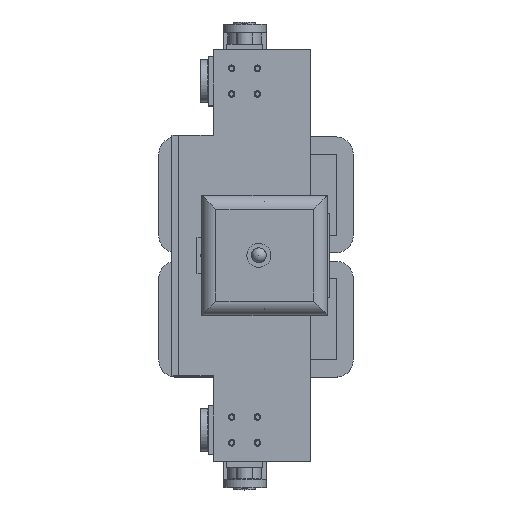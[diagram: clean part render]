
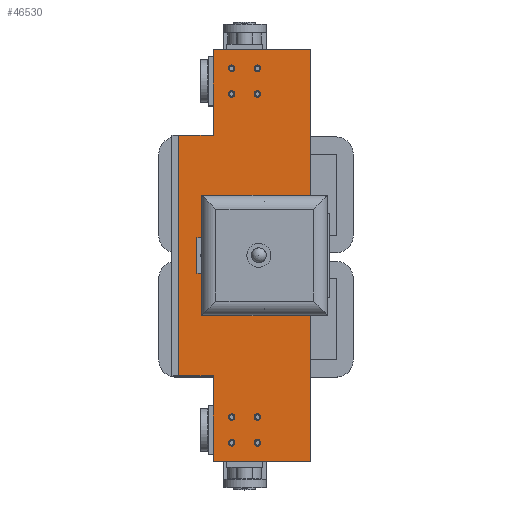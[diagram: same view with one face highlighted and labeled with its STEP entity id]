
A CAD part, top view. The second image highlights one B-rep face of the part: STEP entity #46530.
In plain terms, the highlighted planar face has unit normal (0, 0, 1).
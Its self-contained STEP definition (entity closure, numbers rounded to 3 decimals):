
#44137 = EDGE_CURVE('',#44138,#44138,#44140,.T.);
#44138 = VERTEX_POINT('',#44139);
#44139 = CARTESIAN_POINT('',(-13.6,0.,302.25));
#44140 = CIRCLE('',#44141,0.8);
#44141 = AXIS2_PLACEMENT_3D('',#44142,#44143,#44144);
#44142 = CARTESIAN_POINT('',(-14.4,0.,302.25));
#44143 = DIRECTION('',(0.,0.,1.));
#44144 = DIRECTION('',(1.,0.,0.));
#44163 = VERTEX_POINT('',#44164);
#44164 = CARTESIAN_POINT('',(11.2,-6.45,302.25));
#44172 = VERTEX_POINT('',#44173);
#44173 = CARTESIAN_POINT('',(-12.2,-6.45,302.25));
#44179 = EDGE_CURVE('',#44163,#44172,#44180,.T.);
#44180 = LINE('',#44181,#44182);
#44181 = CARTESIAN_POINT('',(-17.6,-6.45,302.25));
#44182 = VECTOR('',#44183,1.);
#44183 = DIRECTION('',(-1.,0.,0.));
#44196 = VERTEX_POINT('',#44197);
#44197 = CARTESIAN_POINT('',(11.2,6.45,302.25));
#44203 = EDGE_CURVE('',#44163,#44196,#44204,.T.);
#44204 = LINE('',#44205,#44206);
#44205 = CARTESIAN_POINT('',(11.2,-24.225,302.25));
#44206 = VECTOR('',#44207,1.);
#44207 = DIRECTION('',(0.,1.,0.));
#44220 = VERTEX_POINT('',#44221);
#44221 = CARTESIAN_POINT('',(-12.2,6.45,302.25));
#44227 = EDGE_CURVE('',#44172,#44220,#44228,.T.);
#44228 = LINE('',#44229,#44230);
#44229 = CARTESIAN_POINT('',(-12.2,-24.225,302.25));
#44230 = VECTOR('',#44231,1.);
#44231 = DIRECTION('',(0.,1.,0.));
#44244 = EDGE_CURVE('',#44196,#44220,#44245,.T.);
#44245 = LINE('',#44246,#44247);
#44246 = CARTESIAN_POINT('',(-17.6,6.45,302.25));
#44247 = VECTOR('',#44248,1.);
#44248 = DIRECTION('',(-1.,0.,0.));
#44258 = EDGE_CURVE('',#44259,#44259,#44261,.T.);
#44259 = VERTEX_POINT('',#44260);
#44260 = CARTESIAN_POINT('',(14.2,0.,302.25));
#44261 = CIRCLE('',#44262,0.8);
#44262 = AXIS2_PLACEMENT_3D('',#44263,#44264,#44265);
#44263 = CARTESIAN_POINT('',(13.4,0.,302.25));
#44264 = DIRECTION('',(0.,0.,1.));
#44265 = DIRECTION('',(1.,0.,0.));
#44327 = VERTEX_POINT('',#44328);
#44328 = CARTESIAN_POINT('',(-23.,-42.,302.25));
#44334 = EDGE_CURVE('',#44327,#44335,#44337,.T.);
#44335 = VERTEX_POINT('',#44336);
#44336 = CARTESIAN_POINT('',(-11.,-42.,302.25));
#44337 = LINE('',#44338,#44339);
#44338 = CARTESIAN_POINT('',(-23.,-42.,302.25));
#44339 = VECTOR('',#44340,1.);
#44340 = DIRECTION('',(1.,0.,0.));
#44647 = VERTEX_POINT('',#44648);
#44648 = CARTESIAN_POINT('',(-23.,42.,302.25));
#44654 = EDGE_CURVE('',#44647,#44655,#44657,.T.);
#44655 = VERTEX_POINT('',#44656);
#44656 = CARTESIAN_POINT('',(-11.,42.,302.25));
#44657 = LINE('',#44658,#44659);
#44658 = CARTESIAN_POINT('',(-23.,42.,302.25));
#44659 = VECTOR('',#44660,1.);
#44660 = DIRECTION('',(1.,0.,0.));
#44794 = VERTEX_POINT('',#44795);
#44795 = CARTESIAN_POINT('',(-11.,-72.,302.25));
#44803 = EDGE_CURVE('',#44794,#44335,#44804,.T.);
#44804 = LINE('',#44805,#44806);
#44805 = CARTESIAN_POINT('',(-11.,-72.,302.25));
#44806 = VECTOR('',#44807,1.);
#44807 = DIRECTION('',(0.,1.,0.));
#45266 = VERTEX_POINT('',#45267);
#45267 = CARTESIAN_POINT('',(-11.,72.,302.25));
#45273 = EDGE_CURVE('',#44655,#45266,#45274,.T.);
#45274 = LINE('',#45275,#45276);
#45275 = CARTESIAN_POINT('',(-11.,42.,302.25));
#45276 = VECTOR('',#45277,1.);
#45277 = DIRECTION('',(0.,1.,0.));
#45689 = EDGE_CURVE('',#44794,#45690,#45692,.T.);
#45690 = VERTEX_POINT('',#45691);
#45691 = CARTESIAN_POINT('',(23.,-72.,302.25));
#45692 = LINE('',#45693,#45694);
#45693 = CARTESIAN_POINT('',(-11.,-72.,302.25));
#45694 = VECTOR('',#45695,1.);
#45695 = DIRECTION('',(1.,0.,0.));
#45711 = EDGE_CURVE('',#45712,#45712,#45714,.T.);
#45712 = VERTEX_POINT('',#45713);
#45713 = CARTESIAN_POINT('',(-3.35,-65.5,302.25));
#45714 = CIRCLE('',#45715,1.15);
#45715 = AXIS2_PLACEMENT_3D('',#45716,#45717,#45718);
#45716 = CARTESIAN_POINT('',(-4.5,-65.5,302.25));
#45717 = DIRECTION('',(0.,0.,1.));
#45718 = DIRECTION('',(1.,0.,0.));
#45736 = EDGE_CURVE('',#45737,#45737,#45739,.T.);
#45737 = VERTEX_POINT('',#45738);
#45738 = CARTESIAN_POINT('',(5.65,-65.5,302.25));
#45739 = CIRCLE('',#45740,1.15);
#45740 = AXIS2_PLACEMENT_3D('',#45741,#45742,#45743);
#45741 = CARTESIAN_POINT('',(4.5,-65.5,302.25));
#45742 = DIRECTION('',(0.,0.,1.));
#45743 = DIRECTION('',(1.,0.,0.));
#45761 = EDGE_CURVE('',#45762,#45762,#45764,.T.);
#45762 = VERTEX_POINT('',#45763);
#45763 = CARTESIAN_POINT('',(-3.35,-56.5,302.25));
#45764 = CIRCLE('',#45765,1.15);
#45765 = AXIS2_PLACEMENT_3D('',#45766,#45767,#45768);
#45766 = CARTESIAN_POINT('',(-4.5,-56.5,302.25));
#45767 = DIRECTION('',(0.,0.,1.));
#45768 = DIRECTION('',(1.,0.,0.));
#45786 = EDGE_CURVE('',#45787,#45787,#45789,.T.);
#45787 = VERTEX_POINT('',#45788);
#45788 = CARTESIAN_POINT('',(5.65,-56.5,302.25));
#45789 = CIRCLE('',#45790,1.15);
#45790 = AXIS2_PLACEMENT_3D('',#45791,#45792,#45793);
#45791 = CARTESIAN_POINT('',(4.5,-56.5,302.25));
#45792 = DIRECTION('',(0.,0.,1.));
#45793 = DIRECTION('',(1.,0.,0.));
#45825 = EDGE_CURVE('',#45266,#45826,#45828,.T.);
#45826 = VERTEX_POINT('',#45827);
#45827 = CARTESIAN_POINT('',(23.,72.,302.25));
#45828 = LINE('',#45829,#45830);
#45829 = CARTESIAN_POINT('',(-11.,72.,302.25));
#45830 = VECTOR('',#45831,1.);
#45831 = DIRECTION('',(1.,0.,0.));
#45847 = EDGE_CURVE('',#45848,#45848,#45850,.T.);
#45848 = VERTEX_POINT('',#45849);
#45849 = CARTESIAN_POINT('',(-3.35,56.5,302.25));
#45850 = CIRCLE('',#45851,1.15);
#45851 = AXIS2_PLACEMENT_3D('',#45852,#45853,#45854);
#45852 = CARTESIAN_POINT('',(-4.5,56.5,302.25));
#45853 = DIRECTION('',(0.,0.,1.));
#45854 = DIRECTION('',(1.,0.,0.));
#45872 = EDGE_CURVE('',#45873,#45873,#45875,.T.);
#45873 = VERTEX_POINT('',#45874);
#45874 = CARTESIAN_POINT('',(5.65,56.5,302.25));
#45875 = CIRCLE('',#45876,1.15);
#45876 = AXIS2_PLACEMENT_3D('',#45877,#45878,#45879);
#45877 = CARTESIAN_POINT('',(4.5,56.5,302.25));
#45878 = DIRECTION('',(0.,0.,1.));
#45879 = DIRECTION('',(1.,0.,0.));
#45897 = EDGE_CURVE('',#45898,#45898,#45900,.T.);
#45898 = VERTEX_POINT('',#45899);
#45899 = CARTESIAN_POINT('',(-3.35,65.5,302.25));
#45900 = CIRCLE('',#45901,1.15);
#45901 = AXIS2_PLACEMENT_3D('',#45902,#45903,#45904);
#45902 = CARTESIAN_POINT('',(-4.5,65.5,302.25));
#45903 = DIRECTION('',(0.,0.,1.));
#45904 = DIRECTION('',(1.,0.,0.));
#45922 = EDGE_CURVE('',#45923,#45923,#45925,.T.);
#45923 = VERTEX_POINT('',#45924);
#45924 = CARTESIAN_POINT('',(5.65,65.5,302.25));
#45925 = CIRCLE('',#45926,1.15);
#45926 = AXIS2_PLACEMENT_3D('',#45927,#45928,#45929);
#45927 = CARTESIAN_POINT('',(4.5,65.5,302.25));
#45928 = DIRECTION('',(0.,0.,1.));
#45929 = DIRECTION('',(1.,0.,0.));
#46276 = EDGE_CURVE('',#44327,#44647,#46277,.T.);
#46277 = LINE('',#46278,#46279);
#46278 = CARTESIAN_POINT('',(-23.,-42.,302.25));
#46279 = VECTOR('',#46280,1.);
#46280 = DIRECTION('',(0.,1.,0.));
#46530 = ADVANCED_FACE('',(#46531,#46546,#46552,#46555,#46558,#46561,
    #46564,#46567,#46570,#46573,#46576,#46579),#46582,.T.);
#46531 = FACE_BOUND('',#46532,.T.);
#46532 = EDGE_LOOP('',(#46533,#46534,#46535,#46536,#46537,#46543,#46544,
    #46545));
#46533 = ORIENTED_EDGE('',*,*,#46276,.F.);
#46534 = ORIENTED_EDGE('',*,*,#44334,.T.);
#46535 = ORIENTED_EDGE('',*,*,#44803,.F.);
#46536 = ORIENTED_EDGE('',*,*,#45689,.T.);
#46537 = ORIENTED_EDGE('',*,*,#46538,.T.);
#46538 = EDGE_CURVE('',#45690,#45826,#46539,.T.);
#46539 = LINE('',#46540,#46541);
#46540 = CARTESIAN_POINT('',(23.,-72.,302.25));
#46541 = VECTOR('',#46542,1.);
#46542 = DIRECTION('',(0.,1.,0.));
#46543 = ORIENTED_EDGE('',*,*,#45825,.F.);
#46544 = ORIENTED_EDGE('',*,*,#45273,.F.);
#46545 = ORIENTED_EDGE('',*,*,#44654,.F.);
#46546 = FACE_BOUND('',#46547,.T.);
#46547 = EDGE_LOOP('',(#46548,#46549,#46550,#46551));
#46548 = ORIENTED_EDGE('',*,*,#44179,.T.);
#46549 = ORIENTED_EDGE('',*,*,#44227,.T.);
#46550 = ORIENTED_EDGE('',*,*,#44244,.F.);
#46551 = ORIENTED_EDGE('',*,*,#44203,.F.);
#46552 = FACE_BOUND('',#46553,.T.);
#46553 = EDGE_LOOP('',(#46554));
#46554 = ORIENTED_EDGE('',*,*,#45897,.F.);
#46555 = FACE_BOUND('',#46556,.T.);
#46556 = EDGE_LOOP('',(#46557));
#46557 = ORIENTED_EDGE('',*,*,#45922,.F.);
#46558 = FACE_BOUND('',#46559,.T.);
#46559 = EDGE_LOOP('',(#46560));
#46560 = ORIENTED_EDGE('',*,*,#45711,.F.);
#46561 = FACE_BOUND('',#46562,.T.);
#46562 = EDGE_LOOP('',(#46563));
#46563 = ORIENTED_EDGE('',*,*,#45736,.F.);
#46564 = FACE_BOUND('',#46565,.T.);
#46565 = EDGE_LOOP('',(#46566));
#46566 = ORIENTED_EDGE('',*,*,#45847,.F.);
#46567 = FACE_BOUND('',#46568,.T.);
#46568 = EDGE_LOOP('',(#46569));
#46569 = ORIENTED_EDGE('',*,*,#45872,.F.);
#46570 = FACE_BOUND('',#46571,.T.);
#46571 = EDGE_LOOP('',(#46572));
#46572 = ORIENTED_EDGE('',*,*,#45761,.F.);
#46573 = FACE_BOUND('',#46574,.T.);
#46574 = EDGE_LOOP('',(#46575));
#46575 = ORIENTED_EDGE('',*,*,#45786,.F.);
#46576 = FACE_BOUND('',#46577,.T.);
#46577 = EDGE_LOOP('',(#46578));
#46578 = ORIENTED_EDGE('',*,*,#44137,.F.);
#46579 = FACE_BOUND('',#46580,.T.);
#46580 = EDGE_LOOP('',(#46581));
#46581 = ORIENTED_EDGE('',*,*,#44258,.F.);
#46582 = PLANE('',#46583);
#46583 = AXIS2_PLACEMENT_3D('',#46584,#46585,#46586);
#46584 = CARTESIAN_POINT('',(1.895,0.,302.25));
#46585 = DIRECTION('',(0.,0.,1.));
#46586 = DIRECTION('',(1.,0.,0.));
